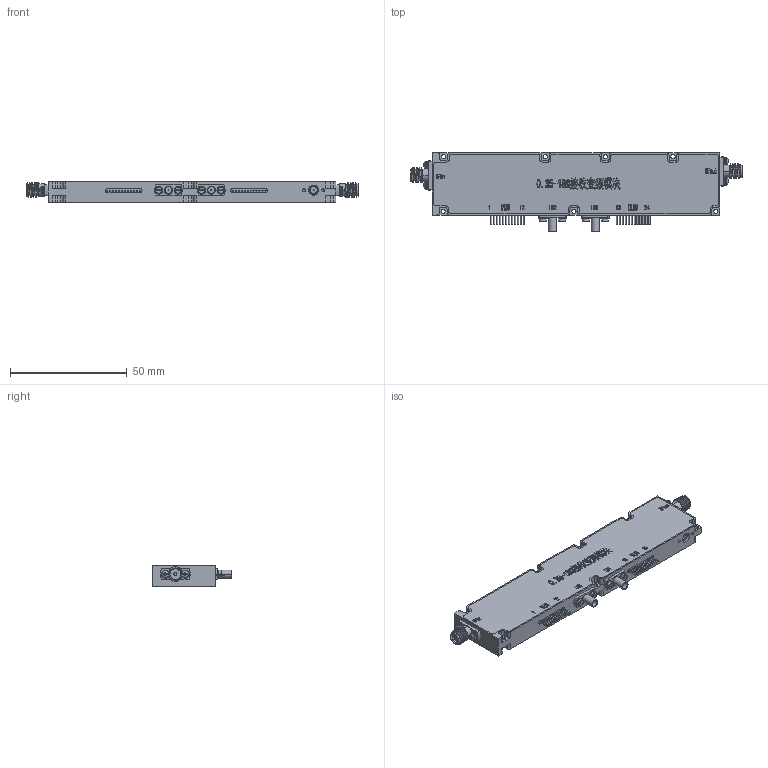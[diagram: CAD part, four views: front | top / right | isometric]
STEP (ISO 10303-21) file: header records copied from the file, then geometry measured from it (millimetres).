
FILE_DESCRIPTION (( 'STEP AP214' ), '1' );
FILE_NAME ('0.35-18G接收变频模块外形图片.STEP', '2026-08-28T01:17:07', ( '' ), ( '' ), 'SwSTEP 2.0', 'SolidWorks 2020', '' );
FILE_SCHEMA (( 'AUTOMOTIVE_DESIGN' ));
Length unit declared in the file: millimetre
Products named in the file (12): smp-jfd22-L蟀諉ん蚾饜; smp-jfd22-L; SMA-8.6潔擒; SMA-8.6潔擒樓蹟隊; plain washers-s series-grade a gb_GB_FASTENER_WASHER_PWSA 1.6; cross recessed pan head screws gb_GB_CROSS_SCREWS_TYPE1 M1.6X4-4  H type-N; SMP(M)-JYD67-L(舜峚) - ; spring lock washers--normal type gb_GB_FASTENER_WASHER_SW 2; slotted cheese head screws gb_GB_FASTENER_SCREWS_SCHS M1.6X3-3-N; 0.35-18G接收变频模块外形图片; 0.35-18G狟曹け耀輸; M1.6蹟隊郪蚾
Assembly tree (17 placements, depth 4):
  0.35-18G接收变频模块外形图片
    0.35-18G狟曹け耀輸
    smp-jfd22-L蟀諉ん蚾饜  x2
      smp-jfd22-L
      plain washers-s series-grade a gb_GB_FASTENER_WASHER_PWSA 1.6
      slotted cheese head screws gb_GB_FASTENER_SCREWS_SCHS M1.6X3-3-N
    SMP(M)-JYD67-L(舜峚) - 
    SMA-8.6潔擒樓蹟隊  x2
      SMA-8.6潔擒
      M1.6蹟隊郪蚾
        cross recessed pan head screws gb_GB_CROSS_SCREWS_TYPE1 M1.6X4-4  H type-N
        spring lock washers--normal type gb_GB_FASTENER_WASHER_SW 2
        plain washers-s series-grade a gb_GB_FASTENER_WASHER_PWSA 1.6
Bounding box: 142.4 x 33.7 x 9 mm (x, y, z)
Volume: 29990.1 mm3; surface area: 12283.1 mm2
Topology: 52 solids, 52 shells, 1637 faces, 4203 edges, 2784 vertices
Faces by surface type: plane 813, bspline 400, cylinder 372, cone 24, torus 16, sphere 12
Entity records: 68501 total; most frequent: CARTESIAN_POINT 25602, ORIENTED_EDGE 7116, DIRECTION 5221, EDGE_CURVE 3558, VERTEX_POINT 2364, VECTOR 2185, LINE 2185, AXIS2_PLACEMENT_3D 1518
